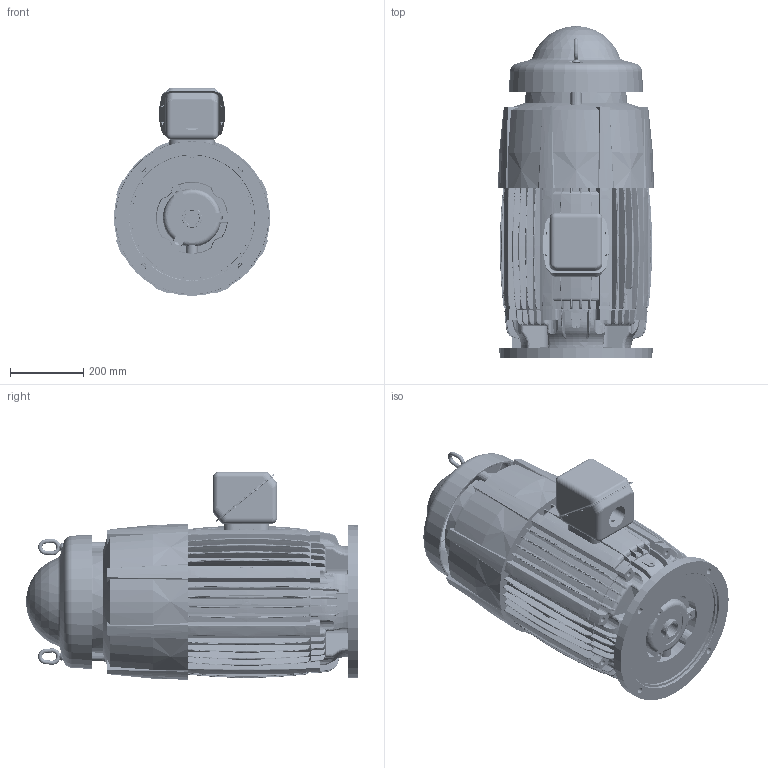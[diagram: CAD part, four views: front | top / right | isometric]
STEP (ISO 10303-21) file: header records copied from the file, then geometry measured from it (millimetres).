
FILE_DESCRIPTION((''),'2;1');
FILE_NAME('324TP_ASSY_ASM','2016-03-30T',('emd2341'),('Nidec Motor Corporation'),'PRO/ENGINEER BY PARAMETRIC TECHNOLOGY CORPORATION, 2013150','PRO/ENGINEER BY PARAMETRIC TECHNOLOGY CORPORATION, 2013150','');
FILE_SCHEMA(('CONFIG_CONTROL_DESIGN'));
Products named in the file (12): 0076828; 0170116; 0169660-BKT; 0169664-CVR; 0116751-CAP; 0378793; 0378794; 0034950; 0116938; SHAFT; 0170141; 324TP_ASSY_ASM
Assembly tree (12 placements, depth 2):
  324TP_ASSY_ASM
    0076828
    0170116
    0169660-BKT
    0169664-CVR
    0116751-CAP
    0378793
    0378794
    0034950  x2
    0116938
    SHAFT
    0170141
Bounding box: 425.45 x 904.37 x 566.1 mm (x, y, z)
Volume: 53134108 mm3; surface area: 4385983.6 mm2
Topology: 14 solids, 14 shells, 5790 faces, 14027 edges, 8219 vertices
Faces by surface type: bspline 3276, plane 721, cylinder 519, cone 408, torus 402, extrusion 301, sphere 163
Entity records: 318921 total; most frequent: CARTESIAN_POINT 210032, ORIENTED_EDGE 27726, DIRECTION 14263, EDGE_CURVE 13863, VERTEX_POINT 8179, B_SPLINE_CURVE_WITH_KNOTS 7999, EDGE_LOOP 5928, FACE_OUTER_BOUND 5761
